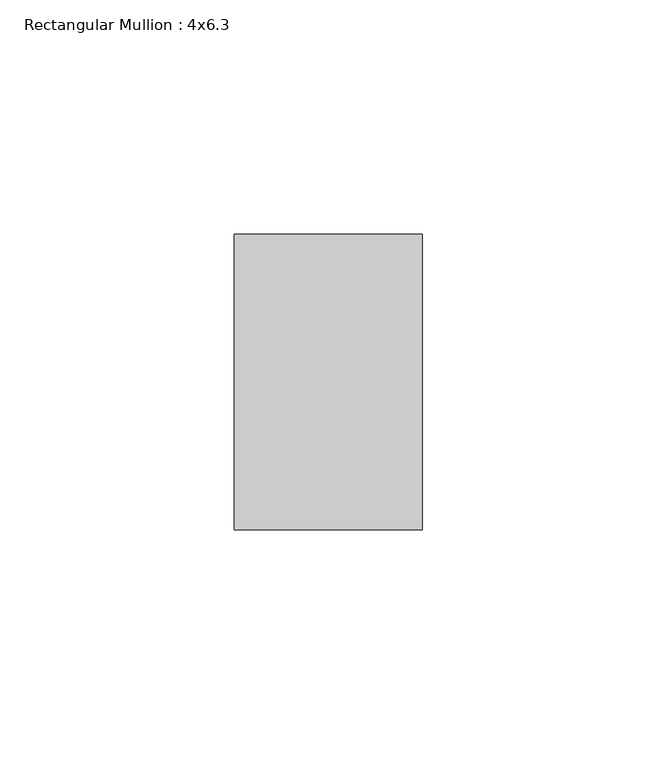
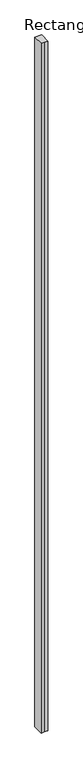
"""IFC4 building model written with IfcOpenShell, lengths in millimetres: member geometry, Rectangular Mullion : 4x6.3."""

from ifc_helpers import new_model, si_unit, frame, origin, place, context, project, spatial, polyline, outline, extrude, source, transform, mapped, element, save


def rectangular_mullion_4x6_3_4747394d(model_context):
    return source(origin(), model_context, "Body", "SweptSolid", [
        extrude(outline(polyline([(-20.0, 20.0), (-20.0, 83.0), (20.0, 83.0), (20.0, 20.0), (0.0, 20.0), (-20.0, 20.0)])), frame((0.0, 0.0, -4317.2638245), z_axis=(0.0, 0.0, 1.0), x_axis=(1.0, 0.0, 0.0)), (0.0, 0.0, 1.0), 4317.2638245),
    ])


if __name__ == "__main__":
    model = new_model("IFC4")
    model_context = context("Model", 3, world=origin())
    ifc_project = project(units=[si_unit("LENGTHUNIT", "METRE", prefix="MILLI")], contexts=[model_context])
    site = spatial("IfcSite", under=ifc_project)
    building = spatial("IfcBuilding", under=site)
    placement = place(None, origin())
    rectangular_mullion_4x6_3_shape = rectangular_mullion_4x6_3_4747394d(model_context)
    element("IfcMember", 1, ObjectType="Rectangular Mullion : 4x6.3", at=placement, inside=building, context=model_context, shape_type="MappedRepresentation", body=[
        mapped(rectangular_mullion_4x6_3_shape, transform((0.0, 0.0, 0.0), x_axis=(1.0, 0.0, 0.0), y_axis=(0.0, 1.0, 0.0), z_axis=(0.0, 0.0, 1.0))),
    ])
    save(model, "model.ifc")
